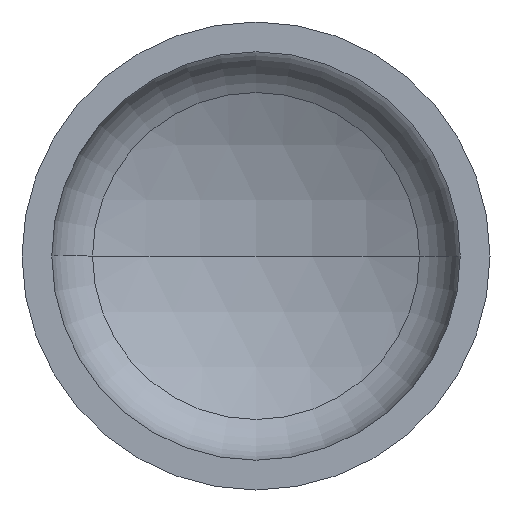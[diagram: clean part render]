
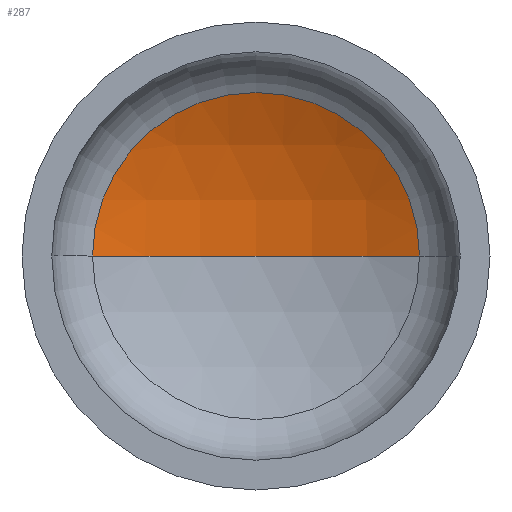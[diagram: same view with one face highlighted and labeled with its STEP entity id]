
A CAD part, front view. The second image highlights one B-rep face of the part: STEP entity #287.
In plain terms, the highlighted spherical face has radius 880 mm.
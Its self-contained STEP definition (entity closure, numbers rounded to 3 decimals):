
#5 = AXIS2_PLACEMENT_3D ( 'NONE', #46, #292, #203 ) ;
#16 = EDGE_LOOP ( 'NONE', ( #26, #139, #103 ) ) ;
#26 = ORIENTED_EDGE ( 'NONE', *, *, #370, .F. ) ;
#27 = AXIS2_PLACEMENT_3D ( 'NONE', #150, #173, #179 ) ;
#35 = VERTEX_POINT ( 'NONE', #288 ) ;
#40 = AXIS2_PLACEMENT_3D ( 'NONE', #100, #91, #87 ) ;
#45 = AXIS2_PLACEMENT_3D ( 'NONE', #191, #189, #85 ) ;
#46 = CARTESIAN_POINT ( 'NONE',  ( 0., -518.749, 0. ) ) ;
#85 = DIRECTION ( 'NONE',  ( 1., 0., 0. ) ) ;
#87 = DIRECTION ( 'NONE',  ( -1., 0., 0. ) ) ;
#91 = DIRECTION ( 'NONE',  ( 0., 0., -1. ) ) ;
#100 = CARTESIAN_POINT ( 'NONE',  ( 0., -518.749, 0. ) ) ;
#103 = ORIENTED_EDGE ( 'NONE', *, *, #181, .T. ) ;
#120 = VERTEX_POINT ( 'NONE', #305 ) ;
#139 = ORIENTED_EDGE ( 'NONE', *, *, #190, .T. ) ;
#141 = VERTEX_POINT ( 'NONE', #209 ) ;
#147 = CIRCLE ( 'NONE', #40, 880. ) ;
#150 = CARTESIAN_POINT ( 'NONE',  ( 0., -518.749, 0. ) ) ;
#173 = DIRECTION ( 'NONE',  ( 0., 0., -1. ) ) ;
#179 = DIRECTION ( 'NONE',  ( -1., 0., 0. ) ) ;
#181 = EDGE_CURVE ( 'NONE', #120, #141, #225, .T. ) ;
#189 = DIRECTION ( 'NONE',  ( 0., -1., 0. ) ) ;
#190 = EDGE_CURVE ( 'NONE', #35, #120, #147, .T. ) ;
#191 = CARTESIAN_POINT ( 'NONE',  ( 0., 272.94, 0. ) ) ;
#203 = DIRECTION ( 'NONE',  ( 1., 0., 0. ) ) ;
#205 = FACE_OUTER_BOUND ( 'NONE', #16, .T. ) ;
#209 = CARTESIAN_POINT ( 'NONE',  ( -384.225, 272.94, 0. ) ) ;
#225 = CIRCLE ( 'NONE', #45, 384.225 ) ;
#249 = CIRCLE ( 'NONE', #5, 880. ) ;
#287 = ADVANCED_FACE ( 'NONE', ( #205 ), #379, .F. ) ;
#288 = CARTESIAN_POINT ( 'NONE',  ( 0., 361.251, 0. ) ) ;
#292 = DIRECTION ( 'NONE',  ( 0., 0., 1. ) ) ;
#305 = CARTESIAN_POINT ( 'NONE',  ( 384.225, 272.94, 0. ) ) ;
#370 = EDGE_CURVE ( 'NONE', #35, #141, #249, .T. ) ;
#379 = SPHERICAL_SURFACE ( 'NONE', #27, 880. ) ;
